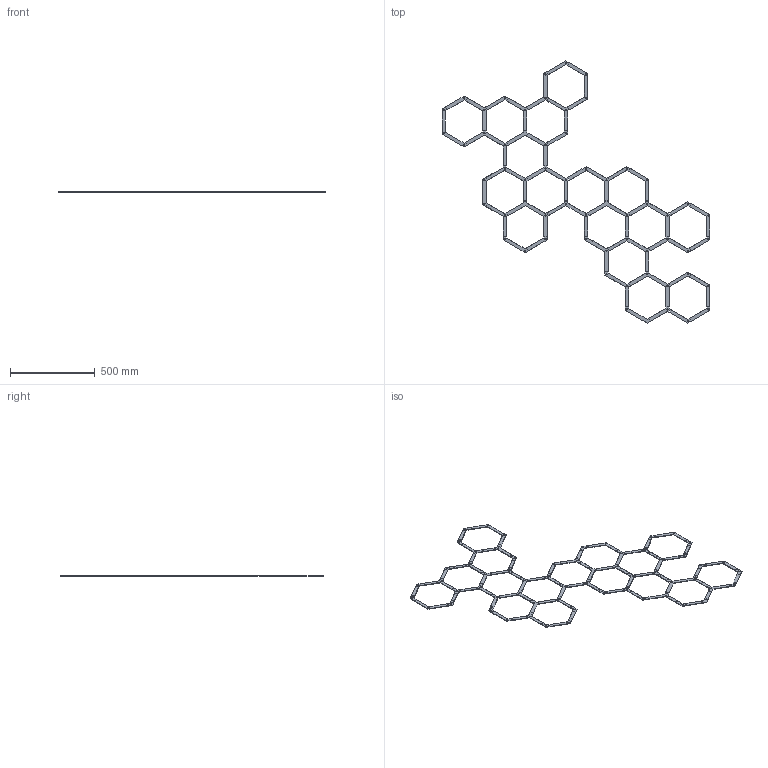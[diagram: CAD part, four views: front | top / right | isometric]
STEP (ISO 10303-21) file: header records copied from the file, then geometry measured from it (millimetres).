
FILE_DESCRIPTION(/* description */ (''),/* implementation_level */ '2;1');
FILE_NAME(/* name */ 'Support Frame V0.step',/* time_stamp */ '2025-09-09T10:46:04+08:00',/* author */ (''),/* organization */ (''),/* preprocessor_version */ 'ST-DEVELOPER v20.1',/* originating_system */ 'Autodesk Translation Framework v14.10.0.0',/* authorisation */ '');
FILE_SCHEMA (('AUTOMOTIVE_DESIGN { 1 0 10303 214 3 1 1 }'));
Products named in the file (1): Hex Light
Bounding box: 1580 x 1547.3 x 2.4 mm (x, y, z)
Volume: 478217.4 mm3; surface area: 453707.4 mm2
Topology: 40 solids, 40 shells, 5438 faces, 15069 edges, 9904 vertices
Faces by surface type: bspline 3249, plane 2077, cone 56, cylinder 56
Full cylindrical faces by diameter (mm): 6 x56
Entity records: 202263 total; most frequent: CARTESIAN_POINT 85645, ORIENTED_EDGE 30138, EDGE_CURVE 15069, DIRECTION 13119, VERTEX_POINT 9904, LINE 8403, VECTOR 8403, B_SPLINE_CURVE_WITH_KNOTS 6498
